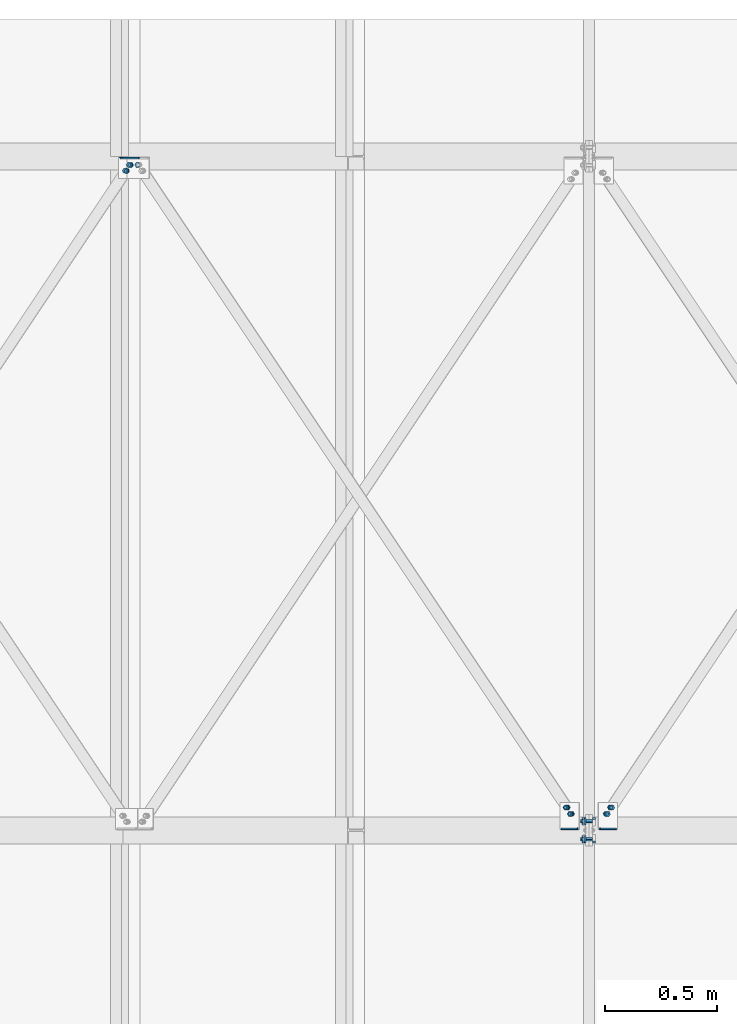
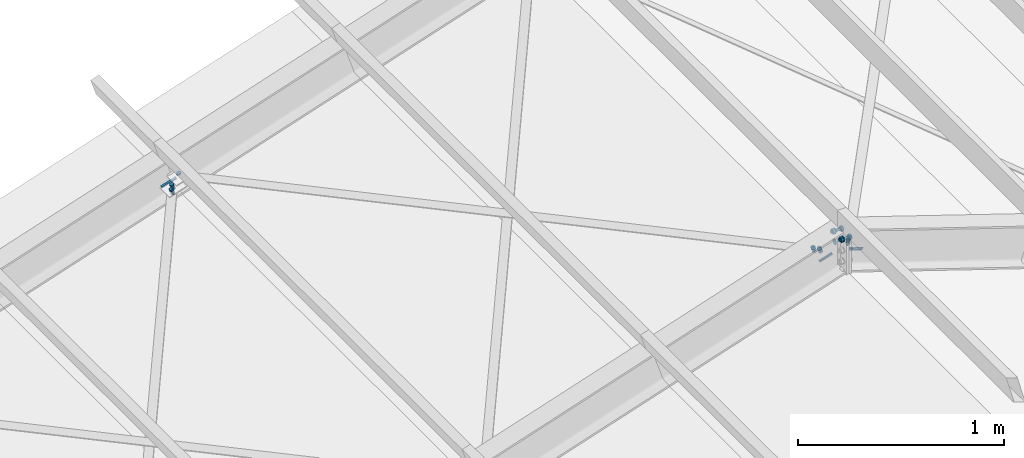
# One storey, part 41 of 53: 34 mechanical fasteners, 6 fasteners.
"""IFC4 building model written with IfcOpenShell, lengths in metres."""

from ifc_helpers import new_model, si_unit, frame, origin_with_axes, place, context, project, spatial, polyline, outline, extrude, type_object, element, save


model = new_model("IFC4")

# Units and contexts
model_context = context("Model", 3, precision=1e-05, world=origin_with_axes())
ifc_project = project(units=[si_unit("LENGTHUNIT", "METRE"), si_unit("AREAUNIT", "SQUARE_METRE"), si_unit("VOLUMEUNIT", "CUBIC_METRE"), si_unit("MASSUNIT", "GRAM", prefix="KILO"), si_unit("TIMEUNIT", "SECOND"), si_unit("PLANEANGLEUNIT", "RADIAN"), si_unit("SOLIDANGLEUNIT", "STERADIAN"), si_unit("THERMODYNAMICTEMPERATUREUNIT", "DEGREE_CELSIUS")], contexts=[model_context])

# Site, building, storey
placement_1 = place(None, origin_with_axes())
site = spatial("IfcSite", under=ifc_project, at=placement_1, Name="Italia", CompositionType="ELEMENT")
building = spatial("IfcBuilding", under=site, at=placement_1, Name="Capannone", CompositionType="ELEMENT")
storey_placement = place(None, frame((0.0, 0.0, 5.550000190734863), z_axis=(0.0, 0.0, 1.0), x_axis=(1.0, 0.0, 0.0)))
storey = spatial("IfcBuildingStorey", under=building, at=storey_placement, Name="Storey 1", CompositionType="ELEMENT", Elevation=5.550000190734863)

# Mechanical fasteners
mechanical_fastener_type_1 = type_object("IfcMechanicalFastenerType", Name="Collegamento -1121_-1087", PredefinedType="BOLT")
placement_2 = place(placement_1, origin_with_axes())
mechanical_fastener_1_placement = place(placement_2, origin_with_axes())
element("IfcMechanicalFastener", 1, at=mechanical_fastener_1_placement, inside=storey, type_object=mechanical_fastener_type_1, Name="Collegamento -1121_-1087", NominalDiameter=0.0119997, context=model_context, shape_type="SweptSolid", body=[
    extrude(outline(polyline([(0.0, 0.0), (-0.00982285, 0.00689316), (-0.0207043, 0.00183296), (-0.0217619, -0.0101204), (-0.011939, -0.0170135), (-0.00105858, -0.0119534), (0.0, 0.0)])), frame((4.95846, 14.9512, 7.25026), z_axis=(-0.312141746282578, 0.0, 0.950035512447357), x_axis=(0.0, -1.0, 0.0)), (0.0, 0.0, 1.0), 0.00959963),
])
mechanical_fastener_type_2 = type_object("IfcMechanicalFastenerType", Name="Collegamento -1121_-1087", PredefinedType="BOLT")
mechanical_fastener_2_placement = place(placement_2, origin_with_axes())
element("IfcMechanicalFastener", 2, at=mechanical_fastener_2_placement, inside=storey, type_object=mechanical_fastener_type_2, Name="Collegamento -1121_-1087", NominalDiameter=0.012, context=model_context, shape_type="SweptSolid", body=[
    extrude(outline(polyline([(0.0, 0.0), (-0.000204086, -0.00155258), (-0.000802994, -0.00299978), (-0.00175667, -0.00424194), (-0.00299931, -0.00519562), (-0.00444698, -0.00579548), (-0.00599957, -0.00599957), (-0.00755215, -0.00579548), (-0.00899982, -0.00519562), (-0.0102425, -0.00424194), (-0.0111961, -0.00299978), (-0.011795, -0.00155258), (-0.0119991, 0.0), (-0.011795, 0.00155354), (-0.0111961, 0.00300026), (-0.0102425, 0.0042429), (-0.00899982, 0.00519657), (-0.00755215, 0.00579548), (-0.00599957, 0.00600052), (-0.00444698, 0.00579548), (-0.00299931, 0.00519657), (-0.00175667, 0.0042429), (-0.000802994, 0.00300026), (-0.000204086, 0.00155354), (0.0, 0.0)])), frame((4.96239, 14.9561, 7.22208), z_axis=(-0.312158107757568, 0.0, 0.950030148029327), x_axis=(0.0, -1.0, 0.0)), (0.0, 0.0, 1.0), 0.028),
])
mechanical_fastener_type_3 = type_object("IfcMechanicalFastenerType", Name="Collegamento -1121_-1087", PredefinedType="BOLT")
mechanical_fastener_3_placement = place(placement_2, origin_with_axes())
element("IfcMechanicalFastener", 3, at=mechanical_fastener_3_placement, inside=storey, type_object=mechanical_fastener_type_3, Name="Collegamento -1121_-1087", NominalDiameter=0.0119997, context=model_context, shape_type="SweptSolid", body=[
    extrude(outline(polyline([(0.0, 0.0), (-0.00982285, 0.00689316), (-0.0207043, 0.00183296), (-0.0217619, -0.0101204), (-0.011939, -0.0170135), (-0.00105858, -0.0119529), (0.0, 0.0)])), frame((4.9652, 14.9512, 7.22974), z_axis=(-0.312141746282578, 0.0, 0.950035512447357), x_axis=(0.0, -1.0, 0.0)), (0.0, 0.0, 1.0), 0.00959963),
])
mechanical_fastener_type_4 = type_object("IfcMechanicalFastenerType", Name="Collegamento -1121_-1087", PredefinedType="BOLT")
mechanical_fastener_4_placement = place(placement_2, origin_with_axes())
element("IfcMechanicalFastener", 4, at=mechanical_fastener_4_placement, inside=storey, type_object=mechanical_fastener_type_4, Name="Collegamento -1121_-1087", NominalDiameter=0.024, context=model_context, shape_type="SweptSolid", body=[
    extrude(outline(polyline([(0.0, 0.0), (-0.000409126, -0.00310564), (-0.00160789, -0.00600004), (-0.00351524, -0.00848579), (-0.00600052, -0.0103927), (-0.00889397, -0.011591), (-0.0120001, -0.0120001), (-0.0151062, -0.011591), (-0.0179996, -0.0103927), (-0.0204849, -0.00848579), (-0.0223923, -0.00600004), (-0.023591, -0.00310564), (-0.0240002, 0.0), (-0.023591, 0.00310564), (-0.0223923, 0.00599957), (-0.0204849, 0.00848484), (-0.0179996, 0.0103922), (-0.0151062, 0.011591), (-0.0120001, 0.0120001), (-0.00889397, 0.011591), (-0.00600052, 0.0103922), (-0.00351524, 0.00848484), (-0.00160789, 0.00599957), (-0.000409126, 0.00310564), (0.0, 0.0)])), frame((4.95739, 14.9501, 7.23728), z_axis=(-0.312362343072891, 0.0, 0.94996303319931), x_axis=(0.0, -1.0, 0.0)), (0.0, 0.0, 1.0), 0.00199978),
])
mechanical_fastener_type_5 = type_object("IfcMechanicalFastenerType", Name="Collegamento -1121_-1087", PredefinedType="BOLT")
mechanical_fastener_5_placement = place(placement_2, origin_with_axes())
element("IfcMechanicalFastener", 5, at=mechanical_fastener_5_placement, inside=storey, type_object=mechanical_fastener_type_5, Name="Collegamento -1121_-1087", NominalDiameter=0.0119994, context=model_context, shape_type="SweptSolid", body=[
    extrude(outline(polyline([(0.0, 0.0), (-0.00982285, 0.00689268), (-0.0207033, 0.00183296), (-0.0217619, -0.0101213), (-0.011939, -0.0170135), (-0.00105762, -0.0119534), (0.0, 0.0)])), frame((4.94099, 14.925, 7.24452), z_axis=(-0.312141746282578, 0.0, 0.950035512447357), x_axis=(0.0, -1.0, 0.0)), (0.0, 0.0, 1.0), 0.00959963),
])
mechanical_fastener_type_6 = type_object("IfcMechanicalFastenerType", Name="Collegamento -1121_-1087", PredefinedType="BOLT")
mechanical_fastener_6_placement = place(placement_2, origin_with_axes())
element("IfcMechanicalFastener", 6, at=mechanical_fastener_6_placement, inside=storey, type_object=mechanical_fastener_type_6, Name="Collegamento -1121_-1087", NominalDiameter=0.012, context=model_context, shape_type="SweptSolid", body=[
    extrude(outline(polyline([(0.0, 0.0), (-0.000204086, -0.00155258), (-0.000802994, -0.00299978), (-0.00175667, -0.00424242), (-0.00299931, -0.00519609), (-0.00444698, -0.00579548), (-0.00599957, -0.00599957), (-0.00755215, -0.00579548), (-0.00899982, -0.00519609), (-0.0102425, -0.00424242), (-0.0111961, -0.00299978), (-0.011795, -0.00155258), (-0.0119991, 0.0), (-0.011795, 0.00155354), (-0.0111961, 0.00300026), (-0.0102425, 0.0042429), (-0.00899982, 0.00519657), (-0.00755215, 0.00579548), (-0.00599957, 0.00600004), (-0.00444698, 0.00579548), (-0.00299931, 0.00519657), (-0.00175667, 0.0042429), (-0.000802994, 0.00300026), (-0.000204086, 0.00155354), (0.0, 0.0)])), frame((4.94493, 14.9299, 7.21634), z_axis=(-0.312158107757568, 0.0, 0.950030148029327), x_axis=(0.0, -1.0, 0.0)), (0.0, 0.0, 1.0), 0.028),
])
mechanical_fastener_type_7 = type_object("IfcMechanicalFastenerType", Name="Collegamento -1121_-1087", PredefinedType="BOLT")
mechanical_fastener_7_placement = place(placement_2, origin_with_axes())
element("IfcMechanicalFastener", 7, at=mechanical_fastener_7_placement, inside=storey, type_object=mechanical_fastener_type_7, Name="Collegamento -1121_-1087", NominalDiameter=0.0119996, context=model_context, shape_type="SweptSolid", body=[
    extrude(outline(polyline([(0.0, 0.0), (-0.00982285, 0.00689316), (-0.0207033, 0.00183296), (-0.0217619, -0.0101204), (-0.011939, -0.0170135), (-0.00105762, -0.0119529), (0.0, 0.0)])), frame((4.94773, 14.925, 7.224), z_axis=(-0.312127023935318, 0.0, 0.950040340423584), x_axis=(0.0, -1.0, 0.0)), (0.0, 0.0, 1.0), 0.00960008),
])
mechanical_fastener_type_8 = type_object("IfcMechanicalFastenerType", Name="Collegamento -1121_-1087", PredefinedType="BOLT")
mechanical_fastener_8_placement = place(placement_2, origin_with_axes())
element("IfcMechanicalFastener", 8, at=mechanical_fastener_8_placement, inside=storey, type_object=mechanical_fastener_type_8, Name="Collegamento -1121_-1087", NominalDiameter=0.024, context=model_context, shape_type="SweptSolid", body=[
    extrude(outline(polyline([(0.0, 0.0), (-0.000409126, -0.00310612), (-0.00160789, -0.00600004), (-0.00351524, -0.00848532), (-0.00600052, -0.0103927), (-0.00889397, -0.011591), (-0.0120001, -0.0120001), (-0.0151062, -0.011591), (-0.0179996, -0.0103927), (-0.0204849, -0.00848532), (-0.0223923, -0.00600004), (-0.023591, -0.00310612), (-0.0240002, 0.0), (-0.023591, 0.00310612), (-0.0223923, 0.00600052), (-0.0204849, 0.00848484), (-0.0179996, 0.0103922), (-0.0151062, 0.011591), (-0.0120001, 0.0120001), (-0.00889397, 0.011591), (-0.00600052, 0.0103922), (-0.00351524, 0.00848484), (-0.00160789, 0.00600052), (-0.000409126, 0.00310612), (0.0, 0.0)])), frame((4.93993, 14.9239, 7.23154), z_axis=(-0.312220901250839, 0.0, 0.950009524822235), x_axis=(0.0, -1.0, 0.0)), (0.0, 0.0, 1.0), 0.00200069),
])

# Fasteners
fastener_type_1 = type_object("IfcFastenerType", Name="Collegamento -1121_-1087", PredefinedType="WELD")
fastener_1_placement = place(placement_2, origin_with_axes())
element("IfcFastener", 9, at=fastener_1_placement, inside=storey, type_object=fastener_type_1, Name="Collegamento -1121_-1087", context=model_context, shape_type="SweptSolid", body=[
    extrude(outline(polyline([(0.0, 0.0), (-0.00717258, 0.00695848), (0.0, 0.00695848), (0.0, 0.0)])), frame((4.91498, 14.9969, 7.22344), z_axis=(0.950032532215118, 0.0, 0.312150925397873), x_axis=(0.0, 1.0, 0.0)), (0.0, 0.0, 1.0), 0.0881004),
])
fastener_type_2 = type_object("IfcFastenerType", Name="Collegamento -1121_-1087", PredefinedType="WELD")
fastener_2_placement = place(placement_2, origin_with_axes())
element("IfcFastener", 10, at=fastener_2_placement, inside=storey, type_object=fastener_type_2, Name="Collegamento -1121_-1087", context=model_context, shape_type="SweptSolid", body=[
    extrude(outline(polyline([(0.0, 0.0), (0.00717258, -0.00695753), (0.0, -0.00695753), (0.0, 0.0)])), frame((4.99281, 14.9969, 7.26882), z_axis=(-0.950032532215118, 0.0, -0.312150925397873), x_axis=(0.0, -1.0, 0.0)), (0.0, 0.0, 1.0), 0.0881004),
])

# Mechanical fasteners
mechanical_fastener_type_9 = type_object("IfcMechanicalFastenerType", Name="Collegamento -1121_-1146", PredefinedType="BOLT")
mechanical_fastener_9_placement = place(placement_2, origin_with_axes())
element("IfcMechanicalFastener", 11, at=mechanical_fastener_9_placement, inside=storey, type_object=mechanical_fastener_type_9, Name="Collegamento -1121_-1146", NominalDiameter=0.0119997, context=model_context, shape_type="SweptSolid", body=[
    extrude(outline(polyline([(0.0, 0.0), (-0.00982285, -0.00689268), (-0.00876427, -0.018846), (0.0021162, -0.0239062), (0.011939, -0.0170131), (0.0108814, -0.0050602), (0.0, 0.0)])), frame((5.00308, 14.9631, 7.30702), z_axis=(-0.312171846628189, 0.0, 0.950025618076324), x_axis=(0.0, -1.0, 0.0)), (0.0, 0.0, 1.0), 0.00960023),
])
mechanical_fastener_type_10 = type_object("IfcMechanicalFastenerType", Name="Collegamenti -1142_-1128 -1143_-1130 -1144_-1132 -1145_-1134 -1146_-1136 -1147_-1138", PredefinedType="BOLT")
mechanical_fastener_10_placement = place(placement_2, origin_with_axes())
element("IfcMechanicalFastener", 12, at=mechanical_fastener_10_placement, inside=storey, type_object=mechanical_fastener_type_10, Name="Collegamenti -1142_-1128 -1143_-1130 -1144_-1132 -1145_-1134 -1146_-1136 -1147_-1138", NominalDiameter=0.032, context=model_context, shape_type="SweptSolid", body=[
    extrude(outline(polyline([(0.0, 0.0), (-0.000544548, -0.00414133), (-0.00214386, -0.0079999), (-0.00468636, -0.0113139), (-0.00799942, -0.0138564), (-0.0118589, -0.0154548), (-0.0159998, -0.0159998), (-0.0201406, -0.0154548), (-0.0240002, -0.0138564), (-0.0273132, -0.0113139), (-0.0298557, -0.0079999), (-0.031455, -0.00414133), (-0.0319996, 0.0), (-0.031455, 0.00414133), (-0.0298557, 0.0079999), (-0.0273132, 0.0113139), (-0.0240002, 0.0138564), (-0.0201406, 0.0154548), (-0.0159998, 0.0159998), (-0.0118589, 0.0154548), (-0.00799942, 0.0138564), (-0.00468636, 0.0113139), (-0.00214386, 0.0079999), (-0.000544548, 0.00414133), (0.0, 0.0)])), frame((6.981, 12.056, 7.97631), z_axis=(1.0, 0.0, 0.000238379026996), x_axis=(0.0, 1.0, 0.0)), (0.0, 0.0, 1.0), 0.00400066),
])
mechanical_fastener_type_11 = type_object("IfcMechanicalFastenerType", Name="Collegamenti -1142_-1128 -1143_-1130 -1144_-1132 -1145_-1134 -1146_-1136 -1147_-1138", PredefinedType="BOLT")
mechanical_fastener_11_placement = place(placement_2, origin_with_axes())
element("IfcMechanicalFastener", 13, at=mechanical_fastener_11_placement, inside=storey, type_object=mechanical_fastener_type_11, Name="Collegamenti -1142_-1128 -1143_-1130 -1144_-1132 -1145_-1134 -1146_-1136 -1147_-1138", NominalDiameter=0.0159993, context=model_context, shape_type="SweptSolid", body=[
    extrude(outline(polyline([(0.0, 0.0), (-0.0160007, 0.0), (-0.0240002, 0.0138559), (-0.0160007, 0.0277128), (0.0, 0.0277128), (0.00799942, 0.0138559), (0.0, 0.0)])), frame((7.015, 11.968, 8.02746), z_axis=(1.0, 0.0, 7.4504547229e-05), x_axis=(0.0, 1.0, 0.0)), (0.0, 0.0, 1.0), 0.0128002),
])
mechanical_fastener_type_12 = type_object("IfcMechanicalFastenerType", Name="Collegamenti -1142_-1128 -1143_-1130 -1144_-1132 -1145_-1134 -1146_-1136 -1147_-1138", PredefinedType="BOLT")
mechanical_fastener_12_placement = place(placement_2, origin_with_axes())
element("IfcMechanicalFastener", 14, at=mechanical_fastener_12_placement, inside=storey, type_object=mechanical_fastener_type_12, Name="Collegamenti -1142_-1128 -1143_-1130 -1144_-1132 -1145_-1134 -1146_-1136 -1147_-1138", NominalDiameter=0.016, context=model_context, shape_type="SweptSolid", body=[
    extrude(outline(polyline([(0.0, 0.0), (-0.000272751, -0.00207043), (-0.00107193, -0.00399971), (-0.00234318, -0.0056572), (-0.00400066, -0.00692844), (-0.00592995, -0.00772762), (-0.00800037, -0.00800037), (-0.0100708, -0.00772762), (-0.0120001, -0.00692844), (-0.0136576, -0.0056572), (-0.0149288, -0.00399971), (-0.015728, -0.00207043), (-0.0160007, 0.0), (-0.015728, 0.00207043), (-0.0149288, 0.00399971), (-0.0136576, 0.0056572), (-0.0120001, 0.00692844), (-0.0100708, 0.00772762), (-0.00800037, 0.00800037), (-0.00592995, 0.00772762), (-0.00400066, 0.00692844), (-0.00234318, 0.0056572), (-0.00107193, 0.00399971), (-0.000272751, 0.00207043), (0.0, 0.0)])), frame((6.961, 11.968, 8.04131), z_axis=(1.0, 0.0, 3.5321023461e-05), x_axis=(0.0, 1.0, 0.0)), (0.0, 0.0, 1.0), 0.0540004),
])
mechanical_fastener_type_13 = type_object("IfcMechanicalFastenerType", Name="Collegamenti -1142_-1128 -1143_-1130 -1144_-1132 -1145_-1134 -1146_-1136 -1147_-1138", PredefinedType="BOLT")
mechanical_fastener_13_placement = place(placement_2, origin_with_axes())
element("IfcMechanicalFastener", 15, at=mechanical_fastener_13_placement, inside=storey, type_object=mechanical_fastener_type_13, Name="Collegamenti -1142_-1128 -1143_-1130 -1144_-1132 -1145_-1134 -1146_-1136 -1147_-1138", NominalDiameter=0.0159993, context=model_context, shape_type="SweptSolid", body=[
    extrude(outline(polyline([(0.0, 0.0), (-0.0160007, 0.0), (-0.0240002, 0.0138559), (-0.0160007, 0.0277128), (0.0, 0.0277128), (0.00799942, 0.0138559), (0.0, 0.0)])), frame((6.9682, 11.968, 8.02746), z_axis=(1.0, 0.0, -7.4507319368e-05), x_axis=(0.0, 1.0, 0.0)), (0.0, 0.0, 1.0), 0.0127997),
])
mechanical_fastener_type_14 = type_object("IfcMechanicalFastenerType", Name="Collegamenti -1142_-1128 -1143_-1130 -1144_-1132 -1145_-1134 -1146_-1136 -1147_-1138", PredefinedType="BOLT")
mechanical_fastener_14_placement = place(placement_2, origin_with_axes())
element("IfcMechanicalFastener", 16, at=mechanical_fastener_14_placement, inside=storey, type_object=mechanical_fastener_type_14, Name="Collegamenti -1142_-1128 -1143_-1130 -1144_-1132 -1145_-1134 -1146_-1136 -1147_-1138", NominalDiameter=0.032, context=model_context, shape_type="SweptSolid", body=[
    extrude(outline(polyline([(0.0, 0.0), (-0.000544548, -0.00414085), (-0.00214386, -0.00800037), (-0.00468636, -0.0113134), (-0.00799942, -0.0138559), (-0.0118589, -0.0154552), (-0.0159998, -0.0159998), (-0.0201406, -0.0154552), (-0.0240002, -0.0138559), (-0.0273132, -0.0113134), (-0.0298557, -0.00800037), (-0.031455, -0.00414085), (-0.0319996, 0.0), (-0.031455, 0.00414085), (-0.0298557, 0.00800037), (-0.0273132, 0.0113134), (-0.0240002, 0.0138559), (-0.0201406, 0.0154552), (-0.0159998, 0.0159998), (-0.0118589, 0.0154552), (-0.00799942, 0.0138559), (-0.00468636, 0.0113134), (-0.00214386, 0.00800037), (-0.000544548, 0.00414085), (0.0, 0.0)])), frame((6.981, 11.976, 8.04131), z_axis=(0.99999988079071, 0.0, 0.000476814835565), x_axis=(0.0, 1.0, 0.0)), (0.0, 0.0, 1.0), 0.00400019),
])
mechanical_fastener_type_15 = type_object("IfcMechanicalFastenerType", Name="Collegamenti -1142_-1128 -1143_-1130 -1144_-1132 -1145_-1134 -1146_-1136 -1147_-1138", PredefinedType="BOLT")
mechanical_fastener_15_placement = place(placement_2, origin_with_axes())
element("IfcMechanicalFastener", 17, at=mechanical_fastener_15_placement, inside=storey, type_object=mechanical_fastener_type_15, Name="Collegamenti -1142_-1128 -1143_-1130 -1144_-1132 -1145_-1134 -1146_-1136 -1147_-1138", NominalDiameter=0.0159993, context=model_context, shape_type="SweptSolid", body=[
    extrude(outline(polyline([(0.0, 0.0), (-0.0160007, 0.0), (-0.0240002, 0.0138559), (-0.0160007, 0.0277128), (0.0, 0.0277128), (0.00799942, 0.0138559), (0.0, 0.0)])), frame((7.015, 12.048, 8.02746), z_axis=(1.0, 0.0, 7.4504547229e-05), x_axis=(0.0, 1.0, 0.0)), (0.0, 0.0, 1.0), 0.0128002),
])
mechanical_fastener_type_16 = type_object("IfcMechanicalFastenerType", Name="Collegamenti -1142_-1128 -1143_-1130 -1144_-1132 -1145_-1134 -1146_-1136 -1147_-1138", PredefinedType="BOLT")
mechanical_fastener_16_placement = place(placement_2, origin_with_axes())
element("IfcMechanicalFastener", 18, at=mechanical_fastener_16_placement, inside=storey, type_object=mechanical_fastener_type_16, Name="Collegamenti -1142_-1128 -1143_-1130 -1144_-1132 -1145_-1134 -1146_-1136 -1147_-1138", NominalDiameter=0.016, context=model_context, shape_type="SweptSolid", body=[
    extrude(outline(polyline([(0.0, 0.0), (-0.000272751, -0.00207043), (-0.00107193, -0.00399971), (-0.00234318, -0.0056572), (-0.00400066, -0.00692844), (-0.00592995, -0.00772762), (-0.00800037, -0.00800037), (-0.0100708, -0.00772762), (-0.0120001, -0.00692844), (-0.0136576, -0.0056572), (-0.0149288, -0.00399971), (-0.015728, -0.00207043), (-0.0160007, 0.0), (-0.015728, 0.00207043), (-0.0149288, 0.00399971), (-0.0136576, 0.0056572), (-0.0120001, 0.00692844), (-0.0100708, 0.00772762), (-0.00800037, 0.00800037), (-0.00592995, 0.00772762), (-0.00400066, 0.00692844), (-0.00234318, 0.0056572), (-0.00107193, 0.00399971), (-0.000272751, 0.00207043), (0.0, 0.0)])), frame((6.961, 12.048, 8.04131), z_axis=(1.0, 0.0, 3.5321023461e-05), x_axis=(0.0, 1.0, 0.0)), (0.0, 0.0, 1.0), 0.0540004),
])
mechanical_fastener_type_17 = type_object("IfcMechanicalFastenerType", Name="Collegamenti -1142_-1128 -1143_-1130 -1144_-1132 -1145_-1134 -1146_-1136 -1147_-1138", PredefinedType="BOLT")
mechanical_fastener_17_placement = place(placement_2, origin_with_axes())
element("IfcMechanicalFastener", 19, at=mechanical_fastener_17_placement, inside=storey, type_object=mechanical_fastener_type_17, Name="Collegamenti -1142_-1128 -1143_-1130 -1144_-1132 -1145_-1134 -1146_-1136 -1147_-1138", NominalDiameter=0.0159993, context=model_context, shape_type="SweptSolid", body=[
    extrude(outline(polyline([(0.0, 0.0), (-0.0160007, 0.0), (-0.0240002, 0.0138559), (-0.0160007, 0.0277128), (0.0, 0.0277128), (0.00799942, 0.0138559), (0.0, 0.0)])), frame((6.9682, 12.048, 8.02746), z_axis=(1.0, 0.0, -7.4507319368e-05), x_axis=(0.0, 1.0, 0.0)), (0.0, 0.0, 1.0), 0.0127997),
])
mechanical_fastener_type_18 = type_object("IfcMechanicalFastenerType", Name="Collegamenti -1142_-1128 -1143_-1130 -1144_-1132 -1145_-1134 -1146_-1136 -1147_-1138", PredefinedType="BOLT")
mechanical_fastener_18_placement = place(placement_2, origin_with_axes())
element("IfcMechanicalFastener", 20, at=mechanical_fastener_18_placement, inside=storey, type_object=mechanical_fastener_type_18, Name="Collegamenti -1142_-1128 -1143_-1130 -1144_-1132 -1145_-1134 -1146_-1136 -1147_-1138", NominalDiameter=0.032, context=model_context, shape_type="SweptSolid", body=[
    extrude(outline(polyline([(0.0, 0.0), (-0.000544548, -0.00414085), (-0.00214386, -0.00800037), (-0.00468636, -0.0113134), (-0.00799942, -0.0138559), (-0.0118589, -0.0154552), (-0.0159998, -0.0159998), (-0.0201406, -0.0154552), (-0.0240002, -0.0138559), (-0.0273132, -0.0113134), (-0.0298557, -0.00800037), (-0.031455, -0.00414085), (-0.0319996, 0.0), (-0.031455, 0.00414085), (-0.0298557, 0.00800037), (-0.0273132, 0.0113134), (-0.0240002, 0.0138559), (-0.0201406, 0.0154552), (-0.0159998, 0.0159998), (-0.0118589, 0.0154552), (-0.00799942, 0.0138559), (-0.00468636, 0.0113134), (-0.00214386, 0.00800037), (-0.000544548, 0.00414085), (0.0, 0.0)])), frame((6.981, 12.056, 8.04131), z_axis=(0.99999988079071, 0.0, 0.000476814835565), x_axis=(0.0, 1.0, 0.0)), (0.0, 0.0, 1.0), 0.00400019),
])
mechanical_fastener_type_19 = type_object("IfcMechanicalFastenerType", Name="Collegamento -1146_-1121", PredefinedType="BOLT")
mechanical_fastener_19_placement = place(placement_2, origin_with_axes())
element("IfcMechanicalFastener", 21, at=mechanical_fastener_19_placement, inside=storey, type_object=mechanical_fastener_type_19, Name="Collegamento -1146_-1121", NominalDiameter=0.0119996, context=model_context, shape_type="SweptSolid", body=[
    extrude(outline(polyline([(0.0, 0.0), (-0.00982285, 0.0068922), (-0.0207033, 0.00183201), (-0.0217619, -0.0101204), (-0.011939, -0.0170135), (-0.00105762, -0.0119543), (0.0, 0.0)])), frame((6.92592, 12.0836, 7.92829), z_axis=(0.312127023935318, 0.0, -0.950040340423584), x_axis=(0.0, 1.0, 0.0)), (0.0, 0.0, 1.0), 0.00960008),
])
mechanical_fastener_type_20 = type_object("IfcMechanicalFastenerType", Name="Collegamento -1146_-1121", PredefinedType="BOLT")
mechanical_fastener_20_placement = place(placement_2, origin_with_axes())
element("IfcMechanicalFastener", 22, at=mechanical_fastener_20_placement, inside=storey, type_object=mechanical_fastener_type_20, Name="Collegamento -1146_-1121", NominalDiameter=0.012, context=model_context, shape_type="SweptSolid", body=[
    extrude(outline(polyline([(0.0, 0.0), (-0.000204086, -0.00155354), (-0.000802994, -0.00300026), (-0.00175667, -0.0042429), (-0.00299931, -0.00519657), (-0.00444698, -0.00579548), (-0.00599957, -0.00600052), (-0.00755215, -0.00579548), (-0.00899982, -0.00519657), (-0.0102425, -0.0042429), (-0.0111961, -0.00300026), (-0.011795, -0.00155354), (-0.0119991, 0.0), (-0.011795, 0.00155258), (-0.0111961, 0.00299931), (-0.0102425, 0.0042429), (-0.00899982, 0.00519657), (-0.00755215, 0.00579548), (-0.00599957, 0.00599957), (-0.00444698, 0.00579548), (-0.00299931, 0.00519657), (-0.00175667, 0.0042429), (-0.000802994, 0.00299931), (-0.000204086, 0.00155258), (0.0, 0.0)])), frame((6.91237, 12.0787, 7.95331), z_axis=(0.312158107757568, 0.0, -0.950030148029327), x_axis=(0.0, 1.0, 0.0)), (0.0, 0.0, 1.0), 0.028),
])
mechanical_fastener_type_21 = type_object("IfcMechanicalFastenerType", Name="Collegamento -1146_-1121", PredefinedType="BOLT")
mechanical_fastener_21_placement = place(placement_2, origin_with_axes())
element("IfcMechanicalFastener", 23, at=mechanical_fastener_21_placement, inside=storey, type_object=mechanical_fastener_type_21, Name="Collegamento -1146_-1121", NominalDiameter=0.0119996, context=model_context, shape_type="SweptSolid", body=[
    extrude(outline(polyline([(0.0, 0.0), (-0.00982285, 0.00689316), (-0.0207033, 0.00183296), (-0.0217619, -0.0101204), (-0.011939, -0.0170145), (-0.00105762, -0.0119534), (0.0, 0.0)])), frame((6.91918, 12.0836, 7.94881), z_axis=(0.312127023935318, 0.0, -0.950040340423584), x_axis=(0.0, 1.0, 0.0)), (0.0, 0.0, 1.0), 0.00960008),
])
mechanical_fastener_type_22 = type_object("IfcMechanicalFastenerType", Name="Collegamento -1146_-1121", PredefinedType="BOLT")
mechanical_fastener_22_placement = place(placement_2, origin_with_axes())
element("IfcMechanicalFastener", 24, at=mechanical_fastener_22_placement, inside=storey, type_object=mechanical_fastener_type_22, Name="Collegamento -1146_-1121", NominalDiameter=0.024, context=model_context, shape_type="SweptSolid", body=[
    extrude(outline(polyline([(0.0, 0.0), (-0.000409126, -0.00310612), (-0.00160789, -0.00600052), (-0.00351524, -0.00848579), (-0.00600052, -0.0103922), (-0.00889397, -0.0115919), (-0.0120001, -0.0120001), (-0.0151062, -0.0115919), (-0.0179996, -0.0103922), (-0.0204849, -0.00848579), (-0.0223923, -0.00600052), (-0.023591, -0.00310612), (-0.0240002, 0.0), (-0.023591, 0.00310516), (-0.0223923, 0.00599957), (-0.0204849, 0.00848484), (-0.0179996, 0.0103922), (-0.0151062, 0.011591), (-0.0120001, 0.0119991), (-0.00889397, 0.011591), (-0.00600052, 0.0103922), (-0.00351524, 0.00848484), (-0.00160789, 0.00599957), (-0.000409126, 0.00310516), (0.0, 0.0)])), frame((6.91737, 12.0847, 7.93811), z_axis=(0.312291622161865, 0.0, -0.949986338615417), x_axis=(0.0, 1.0, 0.0)), (0.0, 0.0, 1.0), 0.00200024),
])
mechanical_fastener_type_23 = type_object("IfcMechanicalFastenerType", Name="Collegamento -1146_-1121", PredefinedType="BOLT")
mechanical_fastener_23_placement = place(placement_2, origin_with_axes())
element("IfcMechanicalFastener", 25, at=mechanical_fastener_23_placement, inside=storey, type_object=mechanical_fastener_type_23, Name="Collegamento -1146_-1121", NominalDiameter=0.0119997, context=model_context, shape_type="SweptSolid", body=[
    extrude(outline(polyline([(0.0, 0.0), (-0.00982285, 0.00689316), (-0.0207043, 0.00183296), (-0.0217619, -0.0101213), (-0.011939, -0.0170135), (-0.00105858, -0.0119534), (0.0, 0.0)])), frame((6.90682, 12.1122, 7.92201), z_axis=(0.312171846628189, 0.0, -0.950025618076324), x_axis=(0.0, 1.0, 0.0)), (0.0, 0.0, 1.0), 0.00960023),
])
mechanical_fastener_type_24 = type_object("IfcMechanicalFastenerType", Name="Collegamento -1146_-1121", PredefinedType="BOLT")
mechanical_fastener_24_placement = place(placement_2, origin_with_axes())
element("IfcMechanicalFastener", 26, at=mechanical_fastener_24_placement, inside=storey, type_object=mechanical_fastener_type_24, Name="Collegamento -1146_-1121", NominalDiameter=0.012, context=model_context, shape_type="SweptSolid", body=[
    extrude(outline(polyline([(0.0, 0.0), (-0.000204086, -0.00155354), (-0.000802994, -0.00300026), (-0.00175667, -0.00424385), (-0.00299931, -0.00519753), (-0.00444698, -0.00579643), (-0.00599957, -0.00600052), (-0.00755215, -0.00579643), (-0.00899982, -0.00519753), (-0.0102425, -0.00424385), (-0.0111961, -0.00300026), (-0.011795, -0.00155354), (-0.0119991, 0.0), (-0.011795, 0.00155258), (-0.0111961, 0.00299931), (-0.0102425, 0.00424194), (-0.00899982, 0.00519562), (-0.00755215, 0.00579548), (-0.00599957, 0.00599861), (-0.00444698, 0.00579548), (-0.00299931, 0.00519562), (-0.00175667, 0.00424194), (-0.000802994, 0.00299931), (-0.000204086, 0.00155258), (0.0, 0.0)])), frame((6.89327, 12.1073, 7.94703), z_axis=(0.312158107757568, 0.0, -0.950030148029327), x_axis=(0.0, 1.0, 0.0)), (0.0, 0.0, 1.0), 0.028),
])
mechanical_fastener_type_25 = type_object("IfcMechanicalFastenerType", Name="Collegamento -1146_-1121", PredefinedType="BOLT")
mechanical_fastener_25_placement = place(placement_2, origin_with_axes())
element("IfcMechanicalFastener", 27, at=mechanical_fastener_25_placement, inside=storey, type_object=mechanical_fastener_type_25, Name="Collegamento -1146_-1121", NominalDiameter=0.0119997, context=model_context, shape_type="SweptSolid", body=[
    extrude(outline(polyline([(0.0, 0.0), (-0.00982285, 0.00689411), (-0.0207043, 0.00183296), (-0.0217619, -0.0101204), (-0.011939, -0.0170135), (-0.00105858, -0.0119524), (0.0, 0.0)])), frame((6.90008, 12.1122, 7.94253), z_axis=(0.312171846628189, 0.0, -0.950025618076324), x_axis=(0.0, 1.0, 0.0)), (0.0, 0.0, 1.0), 0.00960023),
])
mechanical_fastener_type_26 = type_object("IfcMechanicalFastenerType", Name="Collegamento -1146_-1121", PredefinedType="BOLT")
mechanical_fastener_26_placement = place(placement_2, origin_with_axes())
element("IfcMechanicalFastener", 28, at=mechanical_fastener_26_placement, inside=storey, type_object=mechanical_fastener_type_26, Name="Collegamento -1146_-1121", NominalDiameter=0.024, context=model_context, shape_type="SweptSolid", body=[
    extrude(outline(polyline([(0.0, 0.0), (-0.000409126, -0.00310612), (-0.00160789, -0.00600052), (-0.00351524, -0.00848579), (-0.00600052, -0.0103931), (-0.00889397, -0.011591), (-0.0120001, -0.0120001), (-0.0151062, -0.011591), (-0.0179996, -0.0103931), (-0.0204849, -0.00848579), (-0.0223923, -0.00600052), (-0.023591, -0.00310612), (-0.0240002, 0.0), (-0.023591, 0.00310516), (-0.0223923, 0.00599957), (-0.0204849, 0.00848579), (-0.0179996, 0.0103922), (-0.0151062, 0.011591), (-0.0120001, 0.0120001), (-0.00889397, 0.011591), (-0.00600052, 0.0103922), (-0.00351524, 0.00848579), (-0.00160789, 0.00599957), (-0.000409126, 0.00310516), (0.0, 0.0)])), frame((6.89827, 12.1133, 7.93183), z_axis=(0.312362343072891, 0.0, -0.94996303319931), x_axis=(0.0, 1.0, 0.0)), (0.0, 0.0, 1.0), 0.00199978),
])

# Fasteners
fastener_type_3 = type_object("IfcFastenerType", Name="Collegamento -1146_-1121", PredefinedType="WELD")
fastener_3_placement = place(placement_2, origin_with_axes())
element("IfcFastener", 29, at=fastener_3_placement, inside=storey, type_object=fastener_type_3, Name="Collegamento -1146_-1121", context=model_context, shape_type="SweptSolid", body=[
    extrude(outline(polyline([(0.0, 0.0), (0.00717258, -0.00695896), (0.0, -0.00695896), (0.0, 0.0)])), frame((6.87382, 12.0031, 7.92897), z_axis=(0.950032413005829, 0.0, 0.312151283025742), x_axis=(0.0, 1.0, 0.0)), (0.0, 0.0, 1.0), 0.0760981),
])
fastener_type_4 = type_object("IfcFastenerType", Name="Collegamento -1146_-1121", PredefinedType="WELD")
fastener_4_placement = place(placement_2, origin_with_axes())
element("IfcFastener", 30, at=fastener_4_placement, inside=storey, type_object=fastener_type_4, Name="Collegamento -1146_-1121", context=model_context, shape_type="SweptSolid", body=[
    extrude(outline(polyline([(0.0, 0.0), (-0.00717258, 0.00695848), (0.0, 0.00695848), (0.0, 0.0)])), frame((6.95199, 12.0031, 7.93484), z_axis=(-0.950033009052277, 0.0, -0.312149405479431), x_axis=(0.0, -1.0, 0.0)), (0.0, 0.0, 1.0), 0.0760986),
])

# Mechanical fasteners
mechanical_fastener_type_27 = type_object("IfcMechanicalFastenerType", Name="Collegamento -1146_-1122", PredefinedType="BOLT")
mechanical_fastener_27_placement = place(placement_2, origin_with_axes())
element("IfcMechanicalFastener", 31, at=mechanical_fastener_27_placement, inside=storey, type_object=mechanical_fastener_type_27, Name="Collegamento -1146_-1122", NominalDiameter=0.0119997, context=model_context, shape_type="SweptSolid", body=[
    extrude(outline(polyline([(0.0, 0.0), (-0.00982285, 0.00689268), (-0.0207043, 0.00183201), (-0.0217619, -0.0101209), (-0.011939, -0.0170131), (-0.00105858, -0.0119529), (0.0, 0.0)])), frame((7.07564, 12.0836, 7.93304), z_axis=(0.312141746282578, 0.0, 0.950035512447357), x_axis=(0.0, 1.0, 0.0)), (0.0, 0.0, 1.0), 0.00959963),
])
mechanical_fastener_type_28 = type_object("IfcMechanicalFastenerType", Name="Collegamento -1146_-1122", PredefinedType="BOLT")
mechanical_fastener_28_placement = place(placement_2, origin_with_axes())
element("IfcMechanicalFastener", 32, at=mechanical_fastener_28_placement, inside=storey, type_object=mechanical_fastener_type_28, Name="Collegamento -1146_-1122", NominalDiameter=0.012, context=model_context, shape_type="SweptSolid", body=[
    extrude(outline(polyline([(0.0, 0.0), (-0.000204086, -0.00155258), (-0.000802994, -0.00299978), (-0.00175667, -0.00424242), (-0.00299931, -0.00519609), (-0.00444698, -0.00579548), (-0.00599957, -0.00599957), (-0.00755215, -0.00579548), (-0.00899982, -0.00519609), (-0.0102425, -0.00424242), (-0.0111961, -0.00299978), (-0.011795, -0.00155258), (-0.0119991, 0.0), (-0.011795, 0.00155354), (-0.0111961, 0.00300026), (-0.0102425, 0.0042429), (-0.00899982, 0.00519657), (-0.00755215, 0.00579548), (-0.00599957, 0.00600004), (-0.00444698, 0.00579548), (-0.00299931, 0.00519657), (-0.00175667, 0.0042429), (-0.000802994, 0.00300026), (-0.000204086, 0.00155354), (0.0, 0.0)])), frame((7.07171, 12.0787, 7.90486), z_axis=(0.312158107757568, 0.0, 0.950030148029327), x_axis=(0.0, 1.0, 0.0)), (0.0, 0.0, 1.0), 0.028),
])
mechanical_fastener_type_29 = type_object("IfcMechanicalFastenerType", Name="Collegamento -1146_-1122", PredefinedType="BOLT")
mechanical_fastener_29_placement = place(placement_2, origin_with_axes())
element("IfcMechanicalFastener", 33, at=mechanical_fastener_29_placement, inside=storey, type_object=mechanical_fastener_type_29, Name="Collegamento -1146_-1122", NominalDiameter=0.0119997, context=model_context, shape_type="SweptSolid", body=[
    extrude(outline(polyline([(0.0, 0.0), (-0.00982285, 0.00689268), (-0.0207043, 0.00183249), (-0.0217619, -0.0101209), (-0.011939, -0.0170131), (-0.00105858, -0.0119529), (0.0, 0.0)])), frame((7.0689, 12.0836, 7.91252), z_axis=(0.312141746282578, 0.0, 0.950035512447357), x_axis=(0.0, 1.0, 0.0)), (0.0, 0.0, 1.0), 0.00959963),
])
mechanical_fastener_type_30 = type_object("IfcMechanicalFastenerType", Name="Collegamento -1146_-1122", PredefinedType="BOLT")
mechanical_fastener_30_placement = place(placement_2, origin_with_axes())
element("IfcMechanicalFastener", 34, at=mechanical_fastener_30_placement, inside=storey, type_object=mechanical_fastener_type_30, Name="Collegamento -1146_-1122", NominalDiameter=0.024, context=model_context, shape_type="SweptSolid", body=[
    extrude(outline(polyline([(0.0, 0.0), (-0.000409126, -0.00310612), (-0.00160789, -0.00600052), (-0.00351524, -0.00848484), (-0.00600052, -0.0103922), (-0.00889397, -0.011591), (-0.0120001, -0.0120001), (-0.0151062, -0.011591), (-0.0179996, -0.0103922), (-0.0204849, -0.00848484), (-0.0223923, -0.00600052), (-0.023591, -0.00310612), (-0.0240002, 0.0), (-0.023591, 0.00310564), (-0.0223923, 0.00600004), (-0.0204849, 0.00848484), (-0.0179996, 0.0103922), (-0.0151062, 0.011591), (-0.0120001, 0.0119996), (-0.00889397, 0.011591), (-0.00600052, 0.0103922), (-0.00351524, 0.00848484), (-0.00160789, 0.00600004), (-0.000409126, 0.00310564), (0.0, 0.0)])), frame((7.0767, 12.0847, 7.92006), z_axis=(0.312220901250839, 0.0, 0.950009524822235), x_axis=(0.0, 1.0, 0.0)), (0.0, 0.0, 1.0), 0.00200069),
])
mechanical_fastener_type_31 = type_object("IfcMechanicalFastenerType", Name="Collegamento -1146_-1122", PredefinedType="BOLT")
mechanical_fastener_31_placement = place(placement_2, origin_with_axes())
element("IfcMechanicalFastener", 35, at=mechanical_fastener_31_placement, inside=storey, type_object=mechanical_fastener_type_31, Name="Collegamento -1146_-1122", NominalDiameter=0.0119997, context=model_context, shape_type="SweptSolid", body=[
    extrude(outline(polyline([(0.0, 0.0), (-0.00982285, 0.00689268), (-0.0207033, 0.00183249), (-0.0217619, -0.0101209), (-0.011939, -0.017014), (-0.00105762, -0.0119534), (0.0, 0.0)])), frame((7.09474, 12.1122, 7.92676), z_axis=(0.312186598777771, 0.0, 0.950020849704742), x_axis=(0.0, 1.0, 0.0)), (0.0, 0.0, 1.0), 0.00959978),
])
mechanical_fastener_type_32 = type_object("IfcMechanicalFastenerType", Name="Collegamento -1146_-1122", PredefinedType="BOLT")
mechanical_fastener_32_placement = place(placement_2, origin_with_axes())
element("IfcMechanicalFastener", 36, at=mechanical_fastener_32_placement, inside=storey, type_object=mechanical_fastener_type_32, Name="Collegamento -1146_-1122", NominalDiameter=0.012, context=model_context, shape_type="SweptSolid", body=[
    extrude(outline(polyline([(0.0, 0.0), (-0.000204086, -0.00155306), (-0.000802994, -0.00300026), (-0.00175667, -0.0042429), (-0.00299931, -0.00519657), (-0.00444698, -0.00579548), (-0.00599957, -0.00600052), (-0.00755215, -0.00579548), (-0.00899982, -0.00519657), (-0.0102425, -0.0042429), (-0.0111961, -0.00300026), (-0.011795, -0.00155306), (-0.0119991, 0.0), (-0.011795, 0.00155258), (-0.0111961, 0.00299931), (-0.0102425, 0.0042429), (-0.00899982, 0.00519657), (-0.00755215, 0.00579548), (-0.00599957, 0.00599957), (-0.00444698, 0.00579548), (-0.00299931, 0.00519657), (-0.00175667, 0.0042429), (-0.000802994, 0.00299931), (-0.000204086, 0.00155258), (0.0, 0.0)])), frame((7.09081, 12.1073, 7.89858), z_axis=(0.312158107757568, 0.0, 0.950030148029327), x_axis=(0.0, 1.0, 0.0)), (0.0, 0.0, 1.0), 0.028),
])
mechanical_fastener_type_33 = type_object("IfcMechanicalFastenerType", Name="Collegamento -1146_-1122", PredefinedType="BOLT")
mechanical_fastener_33_placement = place(placement_2, origin_with_axes())
element("IfcMechanicalFastener", 37, at=mechanical_fastener_33_placement, inside=storey, type_object=mechanical_fastener_type_33, Name="Collegamento -1146_-1122", NominalDiameter=0.0119997, context=model_context, shape_type="SweptSolid", body=[
    extrude(outline(polyline([(0.0, 0.0), (-0.00982285, 0.0068922), (-0.0207033, 0.00183201), (-0.0217619, -0.0101213), (-0.011939, -0.0170135), (-0.00105762, -0.0119534), (0.0, 0.0)])), frame((7.088, 12.1122, 7.90624), z_axis=(0.312186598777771, 0.0, 0.950020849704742), x_axis=(0.0, 1.0, 0.0)), (0.0, 0.0, 1.0), 0.00959978),
])
mechanical_fastener_type_34 = type_object("IfcMechanicalFastenerType", Name="Collegamento -1146_-1122", PredefinedType="BOLT")
mechanical_fastener_34_placement = place(placement_2, origin_with_axes())
element("IfcMechanicalFastener", 38, at=mechanical_fastener_34_placement, inside=storey, type_object=mechanical_fastener_type_34, Name="Collegamento -1146_-1122", NominalDiameter=0.024, context=model_context, shape_type="SweptSolid", body=[
    extrude(outline(polyline([(0.0, 0.0), (-0.000409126, -0.00310612), (-0.00160789, -0.00600004), (-0.00351524, -0.00848532), (-0.00600052, -0.0103927), (-0.00889397, -0.0115914), (-0.0120001, -0.0120001), (-0.0151062, -0.0115914), (-0.0179996, -0.0103927), (-0.0204849, -0.00848532), (-0.0223923, -0.00600004), (-0.023591, -0.00310612), (-0.0240002, 0.0), (-0.023591, 0.00310516), (-0.0223923, 0.00600004), (-0.0204849, 0.00848532), (-0.0179996, 0.0103922), (-0.0151062, 0.011591), (-0.0120001, 0.0119996), (-0.00889397, 0.011591), (-0.00600052, 0.0103922), (-0.00351524, 0.00848532), (-0.00160789, 0.00600004), (-0.000409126, 0.00310516), (0.0, 0.0)])), frame((7.0958, 12.1133, 7.91378), z_axis=(0.311931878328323, 0.0, 0.950104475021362), x_axis=(0.0, 1.0, 0.0)), (0.0, 0.0, 1.0), 0.00199948),
])

# Fasteners
fastener_type_5 = type_object("IfcFastenerType", Name="Collegamento -1146_-1122", PredefinedType="WELD")
fastener_5_placement = place(placement_2, origin_with_axes())
element("IfcFastener", 39, at=fastener_5_placement, inside=storey, type_object=fastener_type_5, Name="Collegamento -1146_-1122", context=model_context, shape_type="SweptSolid", body=[
    extrude(outline(polyline([(0.0, 0.0), (-0.00717354, 0.00695801), (0.0, 0.00695801), (0.0, 0.0)])), frame((7.11718, 12.003, 7.90159), z_axis=(-0.950029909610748, 1.2531722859e-05, 0.312158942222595), x_axis=(-1.3190871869e-05, -1.0, 0.0)), (0.0, 0.0, 1.0), 0.0761008),
])
fastener_type_6 = type_object("IfcFastenerType", Name="Collegamento -1146_-1122", PredefinedType="WELD")
fastener_6_placement = place(placement_2, origin_with_axes())
element("IfcFastener", 40, at=fastener_6_placement, inside=storey, type_object=fastener_type_6, Name="Collegamento -1146_-1122", context=model_context, shape_type="SweptSolid", body=[
    extrude(outline(polyline([(0.0, 0.0), (0.00717163, -0.00695801), (-9.53674e-07, -0.00695801), (0.0, 0.0)])), frame((7.05076, 12.0031, 7.94322), z_axis=(0.950033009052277, -1.2531846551e-05, -0.312149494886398), x_axis=(1.319095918e-05, 1.0, 0.0)), (0.0, 0.0, 1.0), 0.0761001),
])

save(model, "model.ifc")
